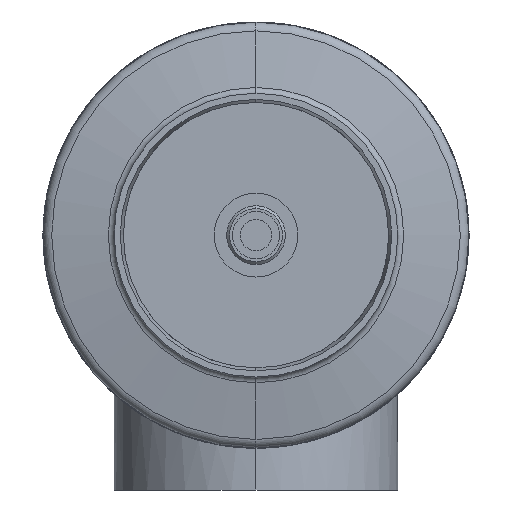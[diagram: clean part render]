
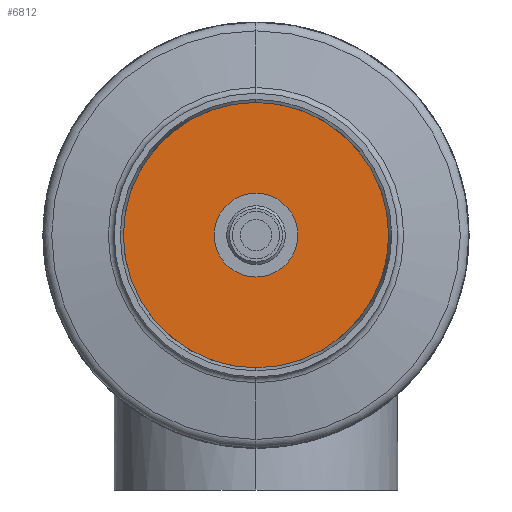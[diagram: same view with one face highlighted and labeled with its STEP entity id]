
A CAD part, front view. The second image highlights one B-rep face of the part: STEP entity #6812.
In plain terms, the highlighted planar face has unit normal (0, -1, 0).
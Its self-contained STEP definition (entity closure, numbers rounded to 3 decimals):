
#36 = ORIENTED_EDGE ( 'NONE', *, *, #8027, .T. ) ;
#95 = ORIENTED_EDGE ( 'NONE', *, *, #7910, .T. ) ;
#144 = EDGE_LOOP ( 'NONE', ( #95, #36 ) ) ;
#167 = ORIENTED_EDGE ( 'NONE', *, *, #412, .F. ) ;
#226 = EDGE_CURVE ( 'NONE', #385, #518, #2064, .T. ) ;
#385 = VERTEX_POINT ( 'NONE', #4054 ) ;
#412 = EDGE_CURVE ( 'NONE', #518, #385, #4254, .T. ) ;
#518 = VERTEX_POINT ( 'NONE', #5770 ) ;
#2064 = CIRCLE ( 'NONE', #2065, 60. ) ;
#2065 = AXIS2_PLACEMENT_3D ( 'NONE', #2066, #2067, #2068 ) ;
#2066 = CARTESIAN_POINT ( 'NONE',  ( 0., -78., 0. ) ) ;
#2067 = DIRECTION ( 'NONE',  ( 0., -1., 0. ) ) ;
#2068 = DIRECTION ( 'NONE',  ( 0., 0., -1. ) ) ;
#3387 = FACE_BOUND ( 'NONE', #6582, .T. ) ;
#3388 = FACE_OUTER_BOUND ( 'NONE', #144, .T. ) ;
#3389 = PLANE ( 'NONE',  #3390 ) ;
#3390 = AXIS2_PLACEMENT_3D ( 'NONE', #3391, #3392, #3393 ) ;
#3391 = CARTESIAN_POINT ( 'NONE',  ( 0., -78., 0. ) ) ;
#3392 = DIRECTION ( 'NONE',  ( 0., -1., 0. ) ) ;
#3393 = DIRECTION ( 'NONE',  ( 0., 0., -1. ) ) ;
#4054 = CARTESIAN_POINT ( 'NONE',  ( 0., -78., -60. ) ) ;
#4254 = CIRCLE ( 'NONE', #4255, 60. ) ;
#4255 = AXIS2_PLACEMENT_3D ( 'NONE', #4256, #4257, #4261 ) ;
#4256 = CARTESIAN_POINT ( 'NONE',  ( 0., -78., 0. ) ) ;
#4257 = DIRECTION ( 'NONE',  ( 0., -1., 0. ) ) ;
#4261 = DIRECTION ( 'NONE',  ( 0., 0., -1. ) ) ;
#5200 = CIRCLE ( 'NONE', #5201, 220. ) ;
#5201 = AXIS2_PLACEMENT_3D ( 'NONE', #5202, #5203, #5204 ) ;
#5202 = CARTESIAN_POINT ( 'NONE',  ( 0., -78., 0. ) ) ;
#5203 = DIRECTION ( 'NONE',  ( 0., -1., 0. ) ) ;
#5204 = DIRECTION ( 'NONE',  ( 0., 0., -1. ) ) ;
#5770 = CARTESIAN_POINT ( 'NONE',  ( 0., -78., 60. ) ) ;
#6048 = CARTESIAN_POINT ( 'NONE',  ( 0., -78., 220. ) ) ;
#6166 = CARTESIAN_POINT ( 'NONE',  ( 0., -78., -220. ) ) ;
#6258 = CIRCLE ( 'NONE', #6259, 220. ) ;
#6259 = AXIS2_PLACEMENT_3D ( 'NONE', #6260, #6261, #6262 ) ;
#6260 = CARTESIAN_POINT ( 'NONE',  ( 0., -78., 0. ) ) ;
#6261 = DIRECTION ( 'NONE',  ( 0., -1., 0. ) ) ;
#6262 = DIRECTION ( 'NONE',  ( 0., 0., -1. ) ) ;
#6582 = EDGE_LOOP ( 'NONE', ( #7999, #167 ) ) ;
#6812 = ADVANCED_FACE ( 'NONE', ( #3387, #3388 ), #3389, .T. ) ;
#7910 = EDGE_CURVE ( 'NONE', #7981, #8001, #5200, .T. ) ;
#7981 = VERTEX_POINT ( 'NONE', #6048 ) ;
#7999 = ORIENTED_EDGE ( 'NONE', *, *, #226, .F. ) ;
#8001 = VERTEX_POINT ( 'NONE', #6166 ) ;
#8027 = EDGE_CURVE ( 'NONE', #8001, #7981, #6258, .T. ) ;
